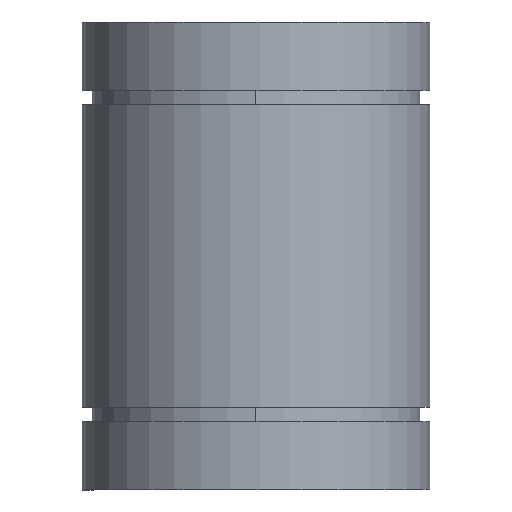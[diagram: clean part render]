
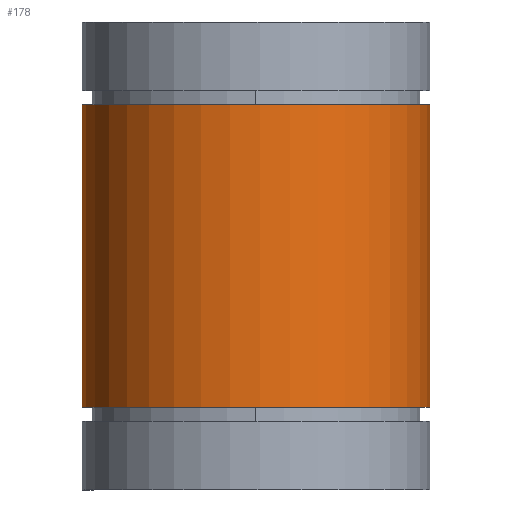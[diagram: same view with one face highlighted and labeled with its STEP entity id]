
A CAD part, front view. The second image highlights one B-rep face of the part: STEP entity #178.
In plain terms, the highlighted cylindrical face has radius 26 mm (diameter 52 mm), a partial arc.
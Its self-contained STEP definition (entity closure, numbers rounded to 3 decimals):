
#137=CARTESIAN_POINT('',(0.0,0.0,0.0));
#138=DIRECTION('',(0.0,0.0,1.0));
#139=DIRECTION('',(-1.0,0.0,0.0));
#140=AXIS2_PLACEMENT_3D('',#137,#138,#139);
#141=CYLINDRICAL_SURFACE('',#140,26.0);
#142=CARTESIAN_POINT('',(26.0,0.,57.65));
#143=VERTEX_POINT('',#142);
#144=CARTESIAN_POINT('',(26.0,0.,12.35));
#145=VERTEX_POINT('',#144);
#146=CARTESIAN_POINT('',(26.0,0.,57.65));
#147=DIRECTION('',(0.0,0.0,-1.0));
#148=VECTOR('',#147,45.3);
#149=LINE('',#146,#148);
#150=EDGE_CURVE('',#143,#145,#149,.T.);
#151=ORIENTED_EDGE('',*,*,#150,.F.);
#152=CARTESIAN_POINT('',(-25.97,-1.25,57.65));
#153=VERTEX_POINT('',#152);
#154=CARTESIAN_POINT('',(0.0,0.0,57.65));
#155=DIRECTION('',(0.0,0.0,-1.0));
#156=DIRECTION('',(-1.0,0.0,0.0));
#157=AXIS2_PLACEMENT_3D('',#154,#155,#156);
#158=CIRCLE('',#157,26.0);
#159=EDGE_CURVE('',#143,#153,#158,.T.);
#160=ORIENTED_EDGE('',*,*,#159,.T.);
#161=CARTESIAN_POINT('',(-25.97,-1.25,12.35));
#162=VERTEX_POINT('',#161);
#163=CARTESIAN_POINT('',(-25.97,-1.25,57.65));
#164=DIRECTION('',(0.0,0.0,-1.0));
#165=VECTOR('',#164,45.3);
#166=LINE('',#163,#165);
#167=EDGE_CURVE('',#153,#162,#166,.T.);
#168=ORIENTED_EDGE('',*,*,#167,.T.);
#169=CARTESIAN_POINT('',(0.0,0.0,12.35));
#170=DIRECTION('',(0.0,0.0,1.0));
#171=DIRECTION('',(-1.0,0.0,0.0));
#172=AXIS2_PLACEMENT_3D('',#169,#170,#171);
#173=CIRCLE('',#172,26.0);
#174=EDGE_CURVE('',#162,#145,#173,.T.);
#175=ORIENTED_EDGE('',*,*,#174,.T.);
#176=EDGE_LOOP('',(#151,#160,#168,#175));
#177=FACE_OUTER_BOUND('',#176,.T.);
#178=ADVANCED_FACE('',(#177),#141,.T.);
